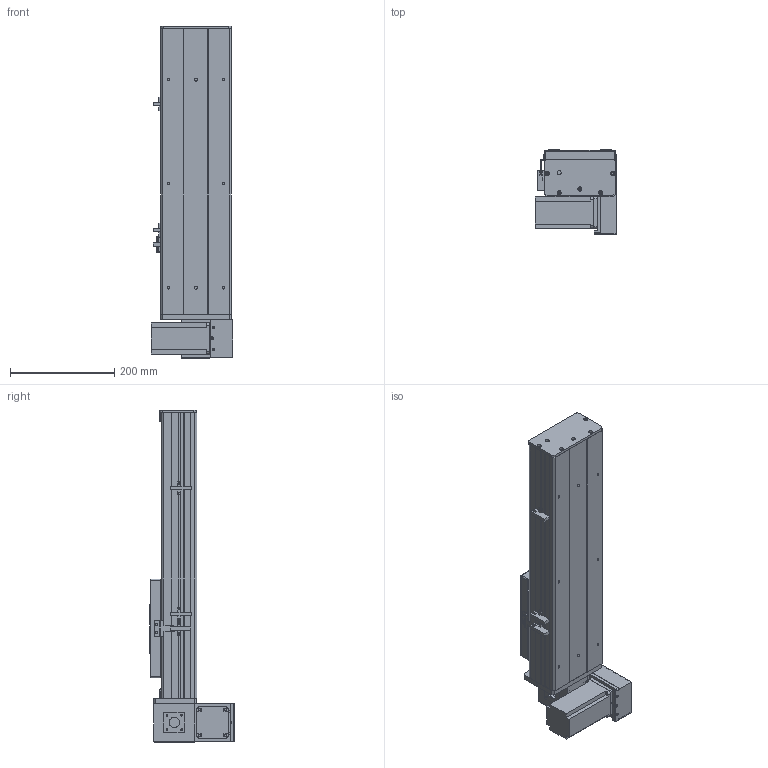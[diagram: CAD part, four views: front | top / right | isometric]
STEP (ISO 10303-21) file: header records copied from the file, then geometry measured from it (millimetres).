
FILE_DESCRIPTION (( 'STEP AP203' ), '1' );
FILE_NAME ('Y135CB-D90-S250-BM-P400W.STEP', '2020-02-18T09:09:30', ( '微软用户' ), ( '微软中国' ), 'SwSTEP 2.0', 'SolidWorks 2017', '' );
FILE_SCHEMA (( 'CONFIG_CONTROL_DESIGN' ));
Length unit declared in the file: millimetre
Products named in the file (18): 135CB---遴掛极.-; Y100-135俋离換覜ん--; 35CB---喘謫眊楊擘啣; Y135C-陔俋离換覜結え-; 0B-埴倛裔啣; 5C--俋欶; 0B-源倛裔啣; C-雄赽釱--; 0B-萇儂楊擘啣; Y10B--々湍喘謫眊--666; san松下电机400不带刹车----; 00B-俋欶BM--; 5CB --掛极耜裔啣-; Y10B-耜蚾蟀諉啣----; C-詩湍揤踡え-陔; Y135CB-耜裔; Y135CB-D90-S250-BM-P400W; 135CB--詩湍-CE
Assembly tree (21 placements, depth 2):
  Y135CB-D90-S250-BM-P400W
    Y135CB-耜裔
    135CB---遴掛极.-
    35CB---喘謫眊楊擘啣
    0B-埴倛裔啣
    0B-源倛裔啣
    0B-萇儂楊擘啣
    san松下电机400不带刹车----
    5CB --掛极耜裔啣-  x2
    C-詩湍揤踡え-陔  x2
    135CB--詩湍-CE
    Y100-135俋离換覜ん--  x3
    Y135C-陔俋离換覜結え-
    5C--俋欶
    C-雄赽釱--
    Y10B--々湍喘謫眊--666
    00B-俋欶BM--
    Y10B-耜蚾蟀諉啣----
Bounding box: 157 x 163.3 x 638 mm (x, y, z)
Volume: 2438826.2 mm3; surface area: 934302.4 mm2
Topology: 21 solids, 21 shells, 929 faces, 2455 edges, 1626 vertices
Faces by surface type: cylinder 457, plane 456, cone 16
Entity records: 28541 total; most frequent: DIRECTION 4739, CARTESIAN_POINT 4636, ORIENTED_EDGE 4386, EDGE_CURVE 2193, AXIS2_PLACEMENT_3D 1721, VERTEX_POINT 1454, VECTOR 1297, LINE 1297
